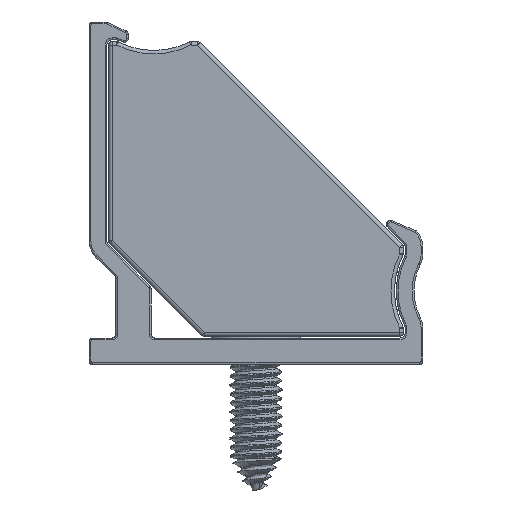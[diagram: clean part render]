
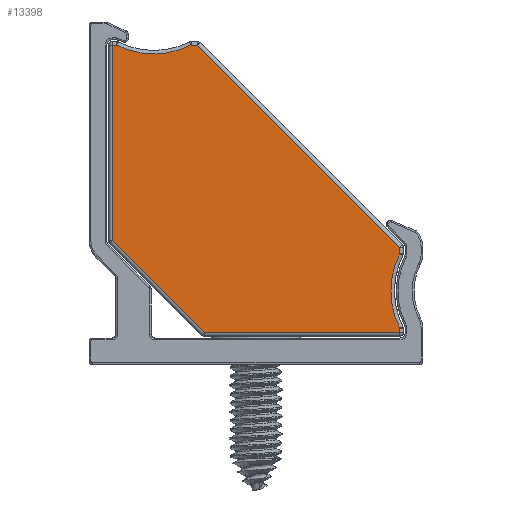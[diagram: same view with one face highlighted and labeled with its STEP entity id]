
A CAD part, front view. The second image highlights one B-rep face of the part: STEP entity #13398.
In plain terms, the highlighted planar face has unit normal (0, -1, 0).
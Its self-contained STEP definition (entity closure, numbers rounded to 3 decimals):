
#499=PLANE('',#14980);
#1389=FACE_OUTER_BOUND('',#2231,.T.);
#2231=EDGE_LOOP('',(#11720,#11721,#11722,#11723,#11724,#11725,#11726,#11727,
#11728,#11729));
#3005=CIRCLE('',#14927,4.638);
#3019=CIRCLE('',#14949,4.638);
#4132=LINE('',#25615,#5167);
#4134=LINE('',#25623,#5169);
#4136=LINE('',#25633,#5171);
#4138=LINE('',#25653,#5173);
#4140=LINE('',#25663,#5175);
#4142=LINE('',#25673,#5177);
#4144=LINE('',#25693,#5179);
#4146=LINE('',#25702,#5181);
#5167=VECTOR('',#18635,10.);
#5169=VECTOR('',#18643,10.);
#5171=VECTOR('',#18655,10.);
#5173=VECTOR('',#18681,10.);
#5175=VECTOR('',#18693,10.);
#5177=VECTOR('',#18705,10.);
#5179=VECTOR('',#18731,10.);
#5181=VECTOR('',#18743,10.);
#6337=VERTEX_POINT('',#25608);
#6340=VERTEX_POINT('',#25613);
#6343=VERTEX_POINT('',#25621);
#6346=VERTEX_POINT('',#25631);
#6349=VERTEX_POINT('',#25641);
#6352=VERTEX_POINT('',#25651);
#6355=VERTEX_POINT('',#25661);
#6358=VERTEX_POINT('',#25671);
#6361=VERTEX_POINT('',#25681);
#6364=VERTEX_POINT('',#25691);
#8122=EDGE_CURVE('',#6340,#6337,#4132,.T.);
#8126=EDGE_CURVE('',#6343,#6340,#4134,.T.);
#8131=EDGE_CURVE('',#6346,#6343,#4136,.T.);
#8136=EDGE_CURVE('',#6349,#6346,#3005,.T.);
#8141=EDGE_CURVE('',#6352,#6349,#4138,.T.);
#8146=EDGE_CURVE('',#6355,#6352,#4140,.T.);
#8151=EDGE_CURVE('',#6358,#6355,#4142,.T.);
#8156=EDGE_CURVE('',#6361,#6358,#3019,.T.);
#8161=EDGE_CURVE('',#6364,#6361,#4144,.T.);
#8166=EDGE_CURVE('',#6337,#6364,#4146,.T.);
#11720=ORIENTED_EDGE('',*,*,#8122,.F.);
#11721=ORIENTED_EDGE('',*,*,#8126,.F.);
#11722=ORIENTED_EDGE('',*,*,#8131,.F.);
#11723=ORIENTED_EDGE('',*,*,#8136,.F.);
#11724=ORIENTED_EDGE('',*,*,#8141,.F.);
#11725=ORIENTED_EDGE('',*,*,#8146,.F.);
#11726=ORIENTED_EDGE('',*,*,#8151,.F.);
#11727=ORIENTED_EDGE('',*,*,#8156,.F.);
#11728=ORIENTED_EDGE('',*,*,#8161,.F.);
#11729=ORIENTED_EDGE('',*,*,#8166,.F.);
#13398=ADVANCED_FACE('',(#1389),#499,.T.);
#14927=AXIS2_PLACEMENT_3D('',#25643,#18668,#18669);
#14949=AXIS2_PLACEMENT_3D('',#25683,#18718,#18719);
#14980=AXIS2_PLACEMENT_3D('',#25749,#18799,#18800);
#18635=DIRECTION('',(-0.707,0.,0.707));
#18643=DIRECTION('',(-1.,0.,0.));
#18655=DIRECTION('',(0.,0.,-1.));
#18668=DIRECTION('center_axis',(0.,-1.,0.));
#18669=DIRECTION('ref_axis',(-1.,0.,0.));
#18681=DIRECTION('',(0.,0.,-1.));
#18693=DIRECTION('',(0.707,0.,-0.707));
#18705=DIRECTION('',(1.,0.,0.));
#18718=DIRECTION('center_axis',(0.,-1.,0.));
#18719=DIRECTION('ref_axis',(0.,0.,-1.));
#18731=DIRECTION('',(1.,0.,0.));
#18743=DIRECTION('',(0.,0.,1.));
#18799=DIRECTION('center_axis',(0.,-1.,0.));
#18800=DIRECTION('ref_axis',(1.,0.,0.));
#25608=CARTESIAN_POINT('',(0.2,-2.,5.383));
#25613=CARTESIAN_POINT('',(5.383,-2.,0.2));
#25615=CARTESIAN_POINT('',(1.496,-2.,4.087));
#25621=CARTESIAN_POINT('',(16.4,-2.,0.2));
#25623=CARTESIAN_POINT('',(6.841,-2.,0.2));
#25631=CARTESIAN_POINT('',(16.4,-2.,0.452));
#25633=CARTESIAN_POINT('',(16.4,-2.,4.25));
#25641=CARTESIAN_POINT('',(16.4,-2.,4.641));
#25643=CARTESIAN_POINT('Origin',(20.538,-2.,2.546));
#25651=CARTESIAN_POINT('',(16.4,-2.,5.01));
#25653=CARTESIAN_POINT('',(16.4,-2.,6.471));
#25661=CARTESIAN_POINT('',(5.01,-2.,16.4));
#25663=CARTESIAN_POINT('',(13.553,-2.,7.858));
#25671=CARTESIAN_POINT('',(4.641,-2.,16.4));
#25673=CARTESIAN_POINT('',(6.655,-2.,16.4));
#25681=CARTESIAN_POINT('',(0.452,-2.,16.4));
#25683=CARTESIAN_POINT('Origin',(2.546,-2.,20.538));
#25691=CARTESIAN_POINT('',(0.2,-2.,16.4));
#25693=CARTESIAN_POINT('',(4.376,-2.,16.4));
#25702=CARTESIAN_POINT('',(0.2,-2.,12.35));
#25749=CARTESIAN_POINT('Origin',(8.3,-2.,8.3));
